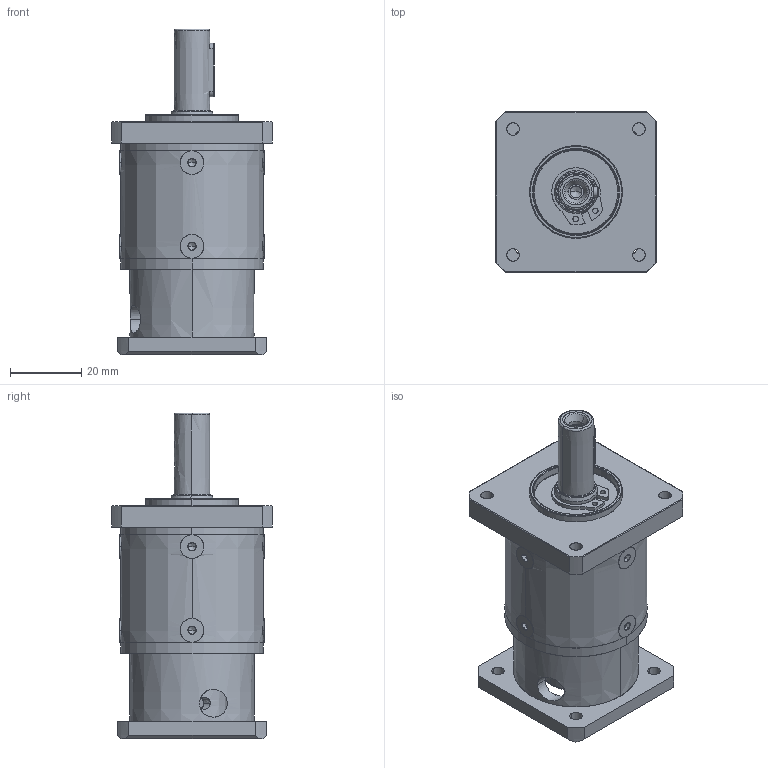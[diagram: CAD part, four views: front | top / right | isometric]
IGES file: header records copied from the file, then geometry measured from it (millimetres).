
Start section: SolidWorks IGES file using analytic representation for surfaces
Global section: file name: C:\TeknicPDM\Remarketed and Private Label Products\Gearboxes\Gearbox Customer Files\GSFL (Newstart PF Series)\GSFL-040-0_ _-N017_-XX Single Stage.IGS; native system: SolidWorks 2020; preprocessor: SolidWorks 2020; author: zeb_koch; date: 250825.152444; units: millimetre
Bounding box: 45 x 45 x 91.5 mm (x, y, z)
Surface area: 38258.1 mm2 (no closed solid volume)
Topology: 0 solids, 0 shells, 946 faces, 18197 edges, 18119 vertices
Faces by surface type: bspline 503, revolution 443
